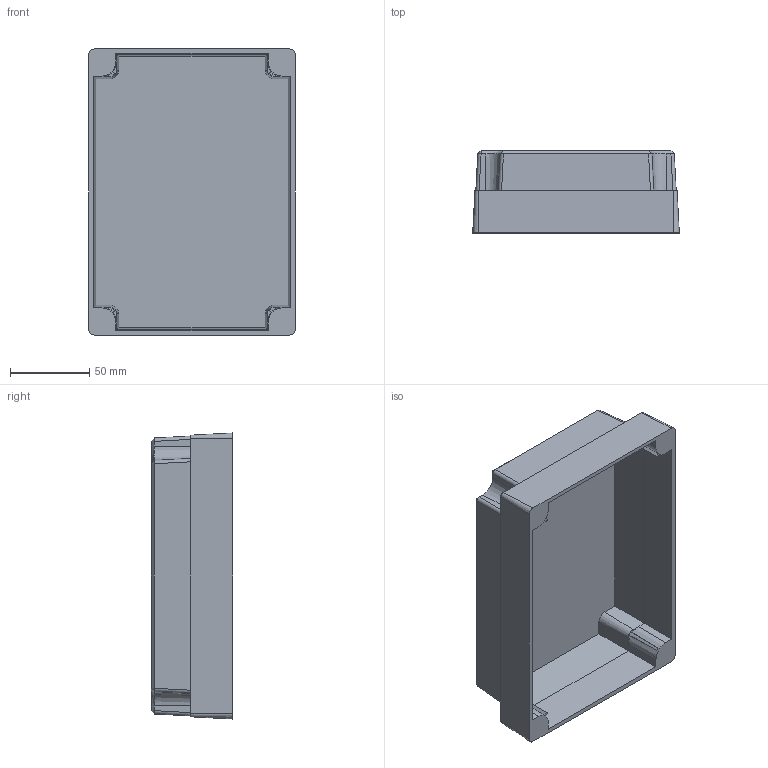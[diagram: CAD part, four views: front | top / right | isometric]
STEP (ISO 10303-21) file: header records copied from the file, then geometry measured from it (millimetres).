
FILE_DESCRIPTION (( 'STEP AP203' ), '1' );
FILE_NAME ('FIBOX_MNX15050C.STEP', '2005-06-30T06:49:13', ( ' ' ), ( ' ' ), 'SwSTEP 2.0', 'SolidWorks 2005143', '' );
FILE_SCHEMA (( 'CONFIG_CONTROL_DESIGN' ));
Length unit declared in the file: millimetre
Products named in the file (1): FIBOX_MNX15050C
Bounding box: 130 x 51.6 x 180 mm (x, y, z)
Volume: 118070.4 mm3; surface area: 104842.6 mm2
Topology: 1 solids, 1 shells, 119 faces, 320 edges, 210 vertices
Faces by surface type: plane 73, cone 24, cylinder 20, bspline 2
Entity records: 6803 total; most frequent: CARTESIAN_POINT 3808, ORIENTED_EDGE 640, DIRECTION 568, EDGE_CURVE 320, VERTEX_POINT 210, AXIS2_PLACEMENT_3D 194, VECTOR 180, LINE 180
